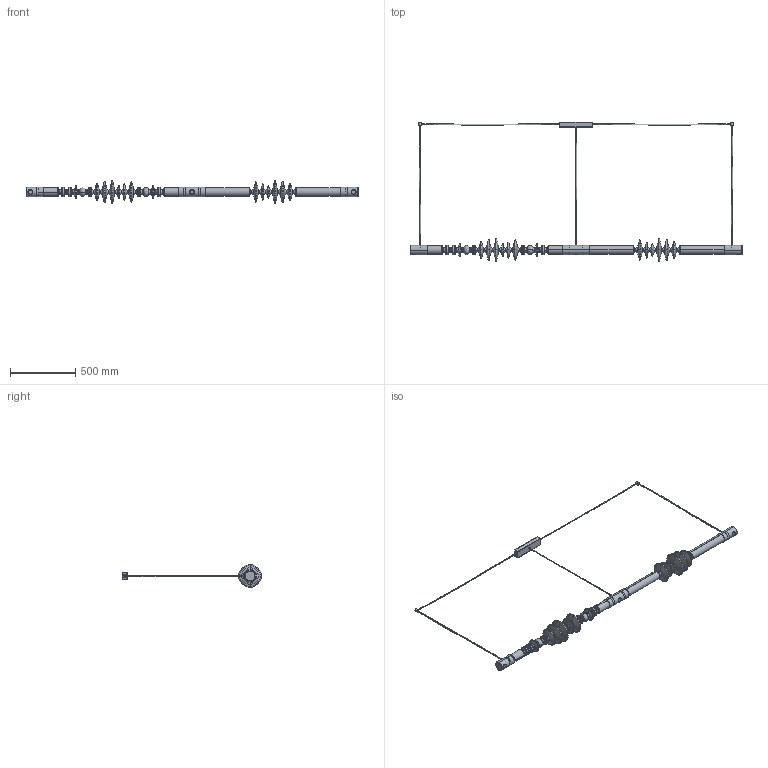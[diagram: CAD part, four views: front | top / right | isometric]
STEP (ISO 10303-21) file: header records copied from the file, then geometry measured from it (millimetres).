
FILE_DESCRIPTION (( 'STEP AP203' ), '1' );
FILE_NAME ('Filamento Horizontal Double, Shape 1+2.STEP', '2026-04-30T09:23:16', ( '' ), ( '' ), 'SwSTEP 2.0', 'SolidWorks 2025', '' );
FILE_SCHEMA (( 'CONFIG_CONTROL_DESIGN' ));
Length unit declared in the file: millimetre
Products named in the file (21): ATA-X21-S403-R00 - Architetti; ATC-X21-S590-R00; Vite a Testa Svasata Piana Cava Esagonale UNI-5933_VITE M3X8 TSPCE UNI-5933; ATA-X21-S400-R00 - Architetti_Sosp. Doppia; ATA-X21-S401-R00 - Architetti_Sosp. Doppia; ATC-X21-S415-R00; ATC-X21-S400-R02 - Architetti; Grano con Cava Esagonale UNI-5923_GRANO M4X6 ESTREMITA'' PIANA UNI-5923; Viti a Testa Bombata e Cava Esagonale ISO-7380_VITE M3X12 TBCE ISO-7380 ; Nipplo Steab 5475xx_NIPPLO M10x1 H.7 TRASP.; ATC-X21-S406-R00; ATC-X21-S591-R00; Lamp. GU10 Ø35 - PAR11 35 Osram_LAMPADA GU10 50W 220V; ATC-X21-S500-R00 - Architetti; ATC-X21-S407-R01 - Architetti; Filamento Horizontal Double, Shape 1+2; ATA-X21-S402-R00 - Architetti; ATC-X21-S414-R00 - Architetti; ATC-X21-S502-R00; ATC-X21-S411-R00 - Architetti_Default<A macchina>; ATA-X21-S500-R00 - Architetti
Assembly tree (45 placements, depth 4):
  Filamento Horizontal Double, Shape 1+2
    ATA-X21-S401-R00 - Architetti_Sosp. Doppia
      Lamp. GU10 Ø35 - PAR11 35 Osram_LAMPADA GU10 50W 220V  x4
      Vite a Testa Svasata Piana Cava Esagonale UNI-5933_VITE M3X8 TSPCE UNI-5933  x4
      Nipplo Steab 5475xx_NIPPLO M10x1 H.7 TRASP.  x2
      Grano con Cava Esagonale UNI-5923_GRANO M4X6 ESTREMITA'' PIANA UNI-5923  x2
      ATA-X21-S400-R00 - Architetti_Sosp. Doppia
        Viti a Testa Bombata e Cava Esagonale ISO-7380_VITE M3X12 TBCE ISO-7380   x2
        Nipplo Steab 5475xx_NIPPLO M10x1 H.7 TRASP.  x3
        ATC-X21-S414-R00 - Architetti
      ATC-X21-S407-R01 - Architetti  x2
      ATC-X21-S590-R00  x2
      ATC-X21-S400-R02 - Architetti  x2
    ATA-X21-S402-R00 - Architetti
      ATC-X21-S411-R00 - Architetti_Default<A macchina>  x2
      ATC-X21-S406-R00
    ATA-X21-S500-R00 - Architetti
      Lamp. GU10 Ø35 - PAR11 35 Osram_LAMPADA GU10 50W 220V  x3
      Vite a Testa Svasata Piana Cava Esagonale UNI-5933_VITE M3X8 TSPCE UNI-5933  x2
      Grano con Cava Esagonale UNI-5923_GRANO M4X6 ESTREMITA'' PIANA UNI-5923  x2
      ATC-X21-S500-R00 - Architetti
      ATC-X21-S502-R00
      ATC-X21-S591-R00
    ATA-X21-S403-R00 - Architetti
      ATC-X21-S411-R00 - Architetti_Default<A macchina>  x2
      ATC-X21-S415-R00
Bounding box: 2550 x 1068 x 177 mm (x, y, z)
Volume: 3129458.5 mm3; surface area: 1954701 mm2
Topology: 43 solids, 43 shells, 1276 faces, 2664 edges, 1536 vertices
Faces by surface type: torus 352, cylinder 341, plane 278, cone 278, bspline 27
Entity records: 31705 total; most frequent: CARTESIAN_POINT 10151, DIRECTION 4496, ORIENTED_EDGE 3546, AXIS2_PLACEMENT_3D 1976, EDGE_CURVE 1773, CIRCLE 1097, VERTEX_POINT 987, EDGE_LOOP 920
